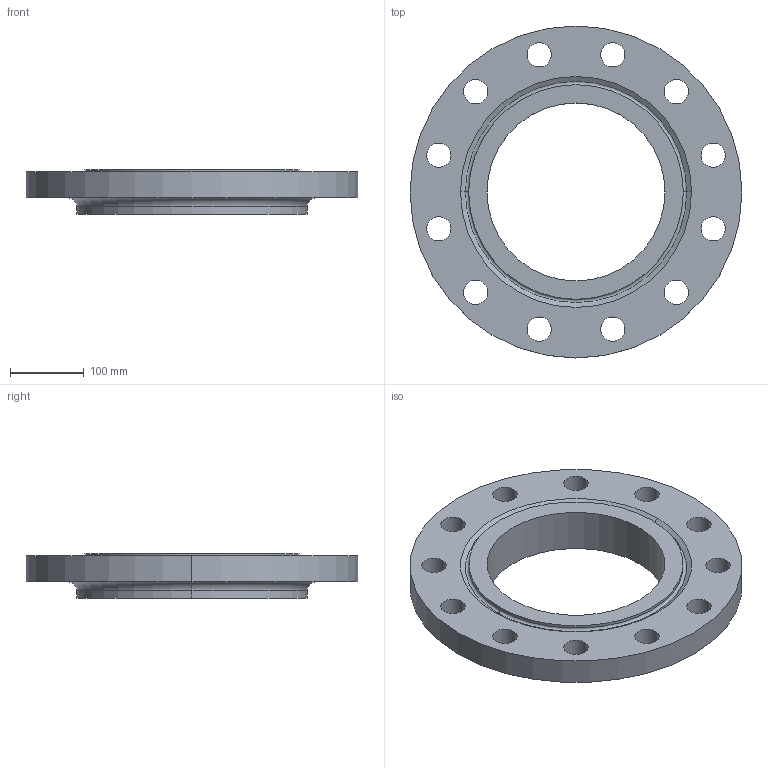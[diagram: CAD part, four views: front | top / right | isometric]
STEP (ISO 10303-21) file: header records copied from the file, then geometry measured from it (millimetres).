
FILE_DESCRIPTION (( 'STEP AP214' ), '1' );
FILE_NAME ('PN40 DN250 Type 13 - Type H Face.STEP', '2019-01-05T15:58:38', ( '' ), ( '' ), 'SwSTEP 2.0', 'SolidWorks 2019', '' );
FILE_SCHEMA (( 'AUTOMOTIVE_DESIGN' ));
Length unit declared in the file: millimetre
Products named in the file (1): PN40 DN250 Type 13 - Type H Face
Bounding box: 450 x 450 x 60 mm (x, y, z)
Volume: 4386424.1 mm3; surface area: 368923.6 mm2
Topology: 1 solids, 1 shells, 42 faces, 108 edges, 70 vertices
Faces by surface type: cylinder 32, torus 4, plane 4, cone 2
Entity records: 1404 total; most frequent: DIRECTION 268, CARTESIAN_POINT 221, ORIENTED_EDGE 216, AXIS2_PLACEMENT_3D 117, EDGE_CURVE 108, CIRCLE 74, VERTEX_POINT 70, EDGE_LOOP 70
